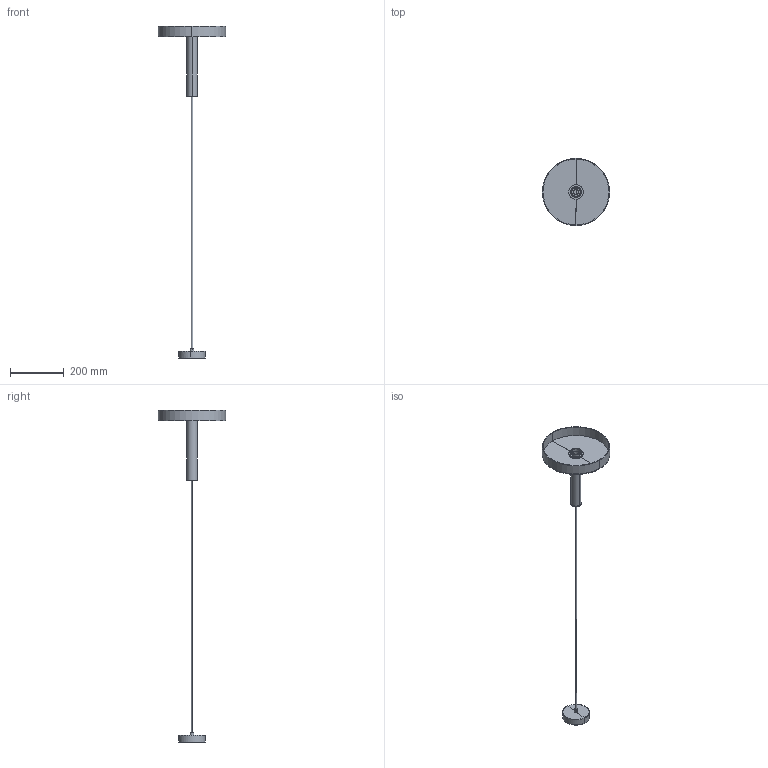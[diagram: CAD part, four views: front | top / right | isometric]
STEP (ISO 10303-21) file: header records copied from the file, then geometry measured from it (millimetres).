
FILE_DESCRIPTION(/* description */ (''),/* implementation_level */ '2;1');
FILE_NAME(/* name */ '20169.step',/* time_stamp */ '2024-04-05T13:30:52+02:00',/* author */ ('RenataManzini'),/* organization */ (''),/* preprocessor_version */ 'ST-DEVELOPER v20',/* originating_system */ 'AutoCAD Mechanical',/* authorisation */ '');
FILE_SCHEMA (('AUTOMOTIVE_DESIGN { 1 0 10303 214 3 1 1 }'));
Length unit declared in the file: millimetre
Products named in the file (3): Product; 20160_20161_CS - ceiling support-593851-_3D_; 20160_20161_LP - WHIZZ Lamp Holder-593852-_3D_
Assembly tree (2 placements, depth 2):
  Product
    20160_20161_CS - ceiling support-593851-_3D_
    20160_20161_LP - WHIZZ Lamp Holder-593852-_3D_
Bounding box: 250 x 250 x 1231 mm (x, y, z)
Volume: 338967 mm3; surface area: 449693.3 mm2
Topology: 8 solids, 8 shells, 122 faces, 252 edges, 138 vertices
Faces by surface type: plane 58, cylinder 56, torus 6, cone 2
Entity records: 4393 total; most frequent: CARTESIAN_POINT 1705, DIRECTION 586, ORIENTED_EDGE 504, EDGE_CURVE 252, AXIS2_PLACEMENT_3D 231, VERTEX_POINT 138, EDGE_LOOP 130, LINE 124
